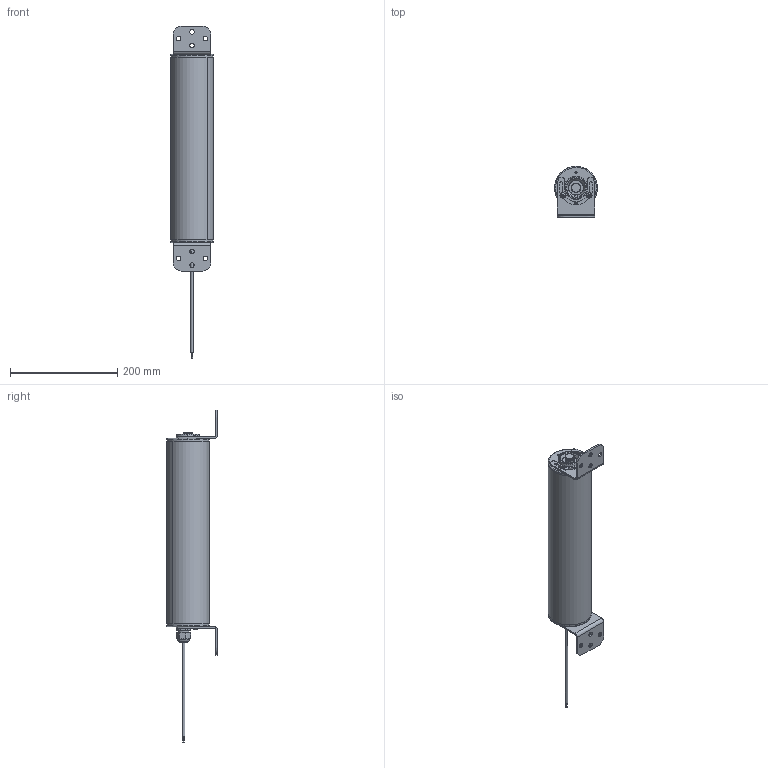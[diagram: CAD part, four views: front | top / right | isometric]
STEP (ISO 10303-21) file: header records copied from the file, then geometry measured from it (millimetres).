
FILE_DESCRIPTION (( 'STEP AP203' ), '1' );
FILE_NAME ('LB9x201.STEP', '2024-08-28T10:11:04', ( '' ), ( '' ), 'SwSTEP 2.0', 'SolidWorks 2021', '' );
FILE_SCHEMA (( 'CONFIG_CONTROL_DESIGN' ));
Length unit declared in the file: millimetre
Products named in the file (7): IP69K adjust model_250; Cable M12 femelle_1; 000715_1; 006266-C; LB9x201; IP69K enclosure adjust_250; 000039_M5x10_1
Assembly tree (10 placements, depth 2):
  LB9x201
    IP69K adjust model_250
    IP69K enclosure adjust_250
    000039_M5x10_1  x4
    000715_1
    Cable M12 femelle_1
    006266-C  x2
Bounding box: 80 x 95 x 618.8 mm (x, y, z)
Volume: 1088109.6 mm3; surface area: 312684.1 mm2
Topology: 12 solids, 12 shells, 1217 faces, 3218 edges, 2092 vertices
Faces by surface type: plane 665, cylinder 366, bspline 92, cone 64, torus 26, sphere 4
Entity records: 40225 total; most frequent: CARTESIAN_POINT 11808, ORIENTED_EDGE 5892, DIRECTION 5600, EDGE_CURVE 2946, VERTEX_POINT 1927, AXIS2_PLACEMENT_3D 1903, VECTOR 1794, LINE 1794
